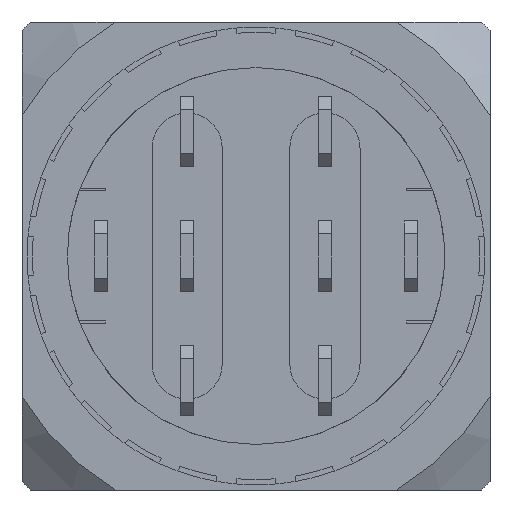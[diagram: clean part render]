
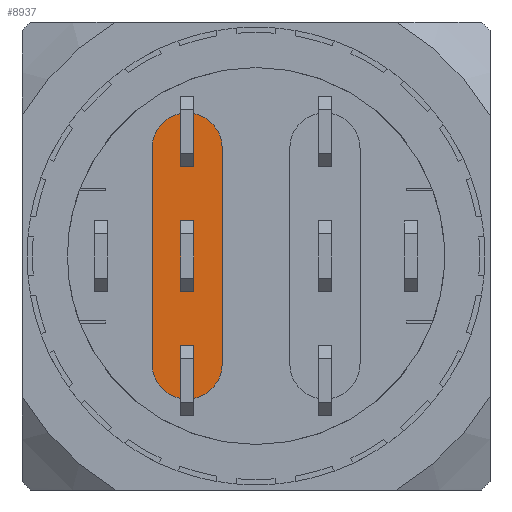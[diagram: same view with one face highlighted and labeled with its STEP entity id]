
A CAD part, front view. The second image highlights one B-rep face of the part: STEP entity #8937.
In plain terms, the highlighted planar face has unit normal (0, -1, 0).
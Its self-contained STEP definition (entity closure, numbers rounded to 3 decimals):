
#297 = VECTOR ( 'NONE', #8142, 1000. ) ;
#299 = VECTOR ( 'NONE', #8121, 1000. ) ;
#304 = VECTOR ( 'NONE', #7895, 1000. ) ;
#307 = VECTOR ( 'NONE', #8120, 1000. ) ;
#309 = VECTOR ( 'NONE', #8124, 1000. ) ;
#310 = AXIS2_PLACEMENT_3D ( 'NONE', #8138, #8127, #8128 ) ;
#311 = VECTOR ( 'NONE', #8118, 1000. ) ;
#770 = ORIENTED_EDGE ( 'NONE', *, *, #3909, .T. ) ;
#771 = ORIENTED_EDGE ( 'NONE', *, *, #3908, .T. ) ;
#772 = ORIENTED_EDGE ( 'NONE', *, *, #3497, .T. ) ;
#773 = ORIENTED_EDGE ( 'NONE', *, *, #3500, .T. ) ;
#774 = ORIENTED_EDGE ( 'NONE', *, *, #3499, .T. ) ;
#775 = ORIENTED_EDGE ( 'NONE', *, *, #3498, .T. ) ;
#776 = ORIENTED_EDGE ( 'NONE', *, *, #3494, .T. ) ;
#777 = ORIENTED_EDGE ( 'NONE', *, *, #3496, .T. ) ;
#779 = ORIENTED_EDGE ( 'NONE', *, *, #3495, .T. ) ;
#1311 = EDGE_LOOP ( 'NONE', ( #779, #776, #777, #775 ) ) ;
#1312 = EDGE_LOOP ( 'NONE', ( #774, #772, #773, #771, #770, #7481, #7482, #7479, #7480, #7463, #7464, #7465 ) ) ;
#3407 = DIRECTION ( 'NONE',  ( 1., 0., 0. ) ) ;
#3408 = DIRECTION ( 'NONE',  ( 0., -1., 0. ) ) ;
#3409 = CARTESIAN_POINT ( 'NONE',  ( -2.65, -5., -4.15 ) ) ;
#3410 = PLANE ( 'NONE',  #4543 ) ;
#3494 = EDGE_CURVE ( 'NONE', #7501, #8387, #8143, .T. ) ;
#3495 = EDGE_CURVE ( 'NONE', #8238, #7501, #7890, .T. ) ;
#3496 = EDGE_CURVE ( 'NONE', #8387, #8388, #7893, .T. ) ;
#3497 = EDGE_CURVE ( 'NONE', #7514, #8395, #7896, .T. ) ;
#3498 = EDGE_CURVE ( 'NONE', #8388, #8238, #8122, .T. ) ;
#3499 = EDGE_CURVE ( 'NONE', #8536, #7514, #8125, .T. ) ;
#3500 = EDGE_CURVE ( 'NONE', #8395, #7517, #4064, .T. ) ;
#3908 = EDGE_CURVE ( 'NONE', #7517, #7502, #6948, .T. ) ;
#3909 = EDGE_CURVE ( 'NONE', #7502, #8537, #4158, .T. ) ;
#3910 = EDGE_CURVE ( 'NONE', #8537, #7493, #6941, .T. ) ;
#3911 = EDGE_CURVE ( 'NONE', #7493, #7491, #6938, .T. ) ;
#3912 = EDGE_CURVE ( 'NONE', #7491, #7515, #6935, .T. ) ;
#3913 = EDGE_CURVE ( 'NONE', #7515, #8435, #4159, .T. ) ;
#3914 = EDGE_CURVE ( 'NONE', #8435, #8523, #6929, .T. ) ;
#3915 = EDGE_CURVE ( 'NONE', #8523, #8280, #4160, .T. ) ;
#3916 = EDGE_CURVE ( 'NONE', #8280, #8536, #6923, .T. ) ;
#4064 = CIRCLE ( 'NONE', #310, 1.35 ) ;
#4158 = CIRCLE ( 'NONE', #4796, 1.35 ) ;
#4159 = CIRCLE ( 'NONE', #4795, 1.35 ) ;
#4160 = CIRCLE ( 'NONE', #4415, 1.35 ) ;
#4415 = AXIS2_PLACEMENT_3D ( 'NONE', #6930, #6926, #6925 ) ;
#4427 = FACE_OUTER_BOUND ( 'NONE', #1312, .T. ) ;
#4543 = AXIS2_PLACEMENT_3D ( 'NONE', #3409, #3408, #3407 ) ;
#4573 = VECTOR ( 'NONE', #6927, 1000. ) ;
#4581 = VECTOR ( 'NONE', #6936, 1000. ) ;
#4607 = VECTOR ( 'NONE', #6939, 1000. ) ;
#4688 = VECTOR ( 'NONE', #6933, 1000. ) ;
#4787 = VECTOR ( 'NONE', #6921, 1000. ) ;
#4795 = AXIS2_PLACEMENT_3D ( 'NONE', #6942, #6932, #6931 ) ;
#4796 = AXIS2_PLACEMENT_3D ( 'NONE', #6945, #6944, #6943 ) ;
#4834 = FACE_BOUND ( 'NONE', #1311, .T. ) ;
#4850 = VECTOR ( 'NONE', #6946, 1000. ) ;
#6090 = CARTESIAN_POINT ( 'NONE',  ( -2.4, -5., 5.477 ) ) ;
#6091 = CARTESIAN_POINT ( 'NONE',  ( -2.9, -5., -3.45 ) ) ;
#6101 = CARTESIAN_POINT ( 'NONE',  ( -4., -5., -4.15 ) ) ;
#6921 = DIRECTION ( 'NONE',  ( 0., 0., 1. ) ) ;
#6922 = CARTESIAN_POINT ( 'NONE',  ( -2.9, -5., -4.15 ) ) ;
#6923 = LINE ( 'NONE', #6922, #4787 ) ;
#6925 = DIRECTION ( 'NONE',  ( 1., 0., 0. ) ) ;
#6926 = DIRECTION ( 'NONE',  ( 0., -1., 0. ) ) ;
#6927 = DIRECTION ( 'NONE',  ( 0., 0., -1. ) ) ;
#6928 = CARTESIAN_POINT ( 'NONE',  ( -4., -5., -4.15 ) ) ;
#6929 = LINE ( 'NONE', #6928, #4573 ) ;
#6930 = CARTESIAN_POINT ( 'NONE',  ( -2.65, -5., -4.15 ) ) ;
#6931 = DIRECTION ( 'NONE',  ( 1., 0., 0. ) ) ;
#6932 = DIRECTION ( 'NONE',  ( 0., -1., 0. ) ) ;
#6933 = DIRECTION ( 'NONE',  ( 0., 0., 1. ) ) ;
#6934 = CARTESIAN_POINT ( 'NONE',  ( -2.9, -5., -4.15 ) ) ;
#6935 = LINE ( 'NONE', #6934, #4688 ) ;
#6936 = DIRECTION ( 'NONE',  ( -1., 0., 0. ) ) ;
#6937 = CARTESIAN_POINT ( 'NONE',  ( -2.65, -5., 3.45 ) ) ;
#6938 = LINE ( 'NONE', #6937, #4581 ) ;
#6939 = DIRECTION ( 'NONE',  ( 0., 0., -1. ) ) ;
#6940 = CARTESIAN_POINT ( 'NONE',  ( -2.4, -5., -4.15 ) ) ;
#6941 = LINE ( 'NONE', #6940, #4607 ) ;
#6942 = CARTESIAN_POINT ( 'NONE',  ( -2.65, -5., 4.15 ) ) ;
#6943 = DIRECTION ( 'NONE',  ( 1., 0., 0. ) ) ;
#6944 = DIRECTION ( 'NONE',  ( 0., -1., 0. ) ) ;
#6945 = CARTESIAN_POINT ( 'NONE',  ( -2.65, -5., 4.15 ) ) ;
#6946 = DIRECTION ( 'NONE',  ( 0., 0., 1. ) ) ;
#6947 = CARTESIAN_POINT ( 'NONE',  ( -1.3, -5., -4.15 ) ) ;
#6948 = LINE ( 'NONE', #6947, #4850 ) ;
#7463 = ORIENTED_EDGE ( 'NONE', *, *, #3914, .T. ) ;
#7464 = ORIENTED_EDGE ( 'NONE', *, *, #3915, .T. ) ;
#7465 = ORIENTED_EDGE ( 'NONE', *, *, #3916, .T. ) ;
#7479 = ORIENTED_EDGE ( 'NONE', *, *, #3912, .T. ) ;
#7480 = ORIENTED_EDGE ( 'NONE', *, *, #3913, .T. ) ;
#7481 = ORIENTED_EDGE ( 'NONE', *, *, #3910, .T. ) ;
#7482 = ORIENTED_EDGE ( 'NONE', *, *, #3911, .T. ) ;
#7491 = VERTEX_POINT ( 'NONE', #9373 ) ;
#7493 = VERTEX_POINT ( 'NONE', #9371 ) ;
#7501 = VERTEX_POINT ( 'NONE', #9363 ) ;
#7502 = VERTEX_POINT ( 'NONE', #9362 ) ;
#7514 = VERTEX_POINT ( 'NONE', #9351 ) ;
#7515 = VERTEX_POINT ( 'NONE', #9350 ) ;
#7517 = VERTEX_POINT ( 'NONE', #9348 ) ;
#7890 = LINE ( 'NONE', #7894, #304 ) ;
#7892 = CARTESIAN_POINT ( 'NONE',  ( -2.4, -5., -4.15 ) ) ;
#7893 = LINE ( 'NONE', #8117, #311 ) ;
#7894 = CARTESIAN_POINT ( 'NONE',  ( -2.65, -5., 1.35 ) ) ;
#7895 = DIRECTION ( 'NONE',  ( 1., 0., 0. ) ) ;
#7896 = LINE ( 'NONE', #8119, #307 ) ;
#8117 = CARTESIAN_POINT ( 'NONE',  ( -2.65, -5., -1.35 ) ) ;
#8118 = DIRECTION ( 'NONE',  ( -1., 0., 0. ) ) ;
#8119 = CARTESIAN_POINT ( 'NONE',  ( -2.4, -5., -4.15 ) ) ;
#8120 = DIRECTION ( 'NONE',  ( 0., 0., -1. ) ) ;
#8121 = DIRECTION ( 'NONE',  ( 0., 0., 1. ) ) ;
#8122 = LINE ( 'NONE', #8123, #299 ) ;
#8123 = CARTESIAN_POINT ( 'NONE',  ( -2.9, -5., -4.15 ) ) ;
#8124 = DIRECTION ( 'NONE',  ( 1., 0., 0. ) ) ;
#8125 = LINE ( 'NONE', #8126, #309 ) ;
#8126 = CARTESIAN_POINT ( 'NONE',  ( -2.65, -5., -3.45 ) ) ;
#8127 = DIRECTION ( 'NONE',  ( 0., -1., 0. ) ) ;
#8128 = DIRECTION ( 'NONE',  ( 1., 0., 0. ) ) ;
#8138 = CARTESIAN_POINT ( 'NONE',  ( -2.65, -5., -4.15 ) ) ;
#8142 = DIRECTION ( 'NONE',  ( 0., 0., -1. ) ) ;
#8143 = LINE ( 'NONE', #7892, #297 ) ;
#8238 = VERTEX_POINT ( 'NONE', #9137 ) ;
#8280 = VERTEX_POINT ( 'NONE', #9121 ) ;
#8387 = VERTEX_POINT ( 'NONE', #9278 ) ;
#8388 = VERTEX_POINT ( 'NONE', #9277 ) ;
#8395 = VERTEX_POINT ( 'NONE', #9274 ) ;
#8435 = VERTEX_POINT ( 'NONE', #9269 ) ;
#8523 = VERTEX_POINT ( 'NONE', #6101 ) ;
#8536 = VERTEX_POINT ( 'NONE', #6091 ) ;
#8537 = VERTEX_POINT ( 'NONE', #6090 ) ;
#8937 = ADVANCED_FACE ( 'NONE', ( #4834, #4427 ), #3410, .T. ) ;
#9121 = CARTESIAN_POINT ( 'NONE',  ( -2.9, -5., -5.477 ) ) ;
#9137 = CARTESIAN_POINT ( 'NONE',  ( -2.9, -5., 1.35 ) ) ;
#9269 = CARTESIAN_POINT ( 'NONE',  ( -4., -5., 4.15 ) ) ;
#9274 = CARTESIAN_POINT ( 'NONE',  ( -2.4, -5., -5.477 ) ) ;
#9277 = CARTESIAN_POINT ( 'NONE',  ( -2.9, -5., -1.35 ) ) ;
#9278 = CARTESIAN_POINT ( 'NONE',  ( -2.4, -5., -1.35 ) ) ;
#9348 = CARTESIAN_POINT ( 'NONE',  ( -1.3, -5., -4.15 ) ) ;
#9350 = CARTESIAN_POINT ( 'NONE',  ( -2.9, -5., 5.477 ) ) ;
#9351 = CARTESIAN_POINT ( 'NONE',  ( -2.4, -5., -3.45 ) ) ;
#9362 = CARTESIAN_POINT ( 'NONE',  ( -1.3, -5., 4.15 ) ) ;
#9363 = CARTESIAN_POINT ( 'NONE',  ( -2.4, -5., 1.35 ) ) ;
#9371 = CARTESIAN_POINT ( 'NONE',  ( -2.4, -5., 3.45 ) ) ;
#9373 = CARTESIAN_POINT ( 'NONE',  ( -2.9, -5., 3.45 ) ) ;
